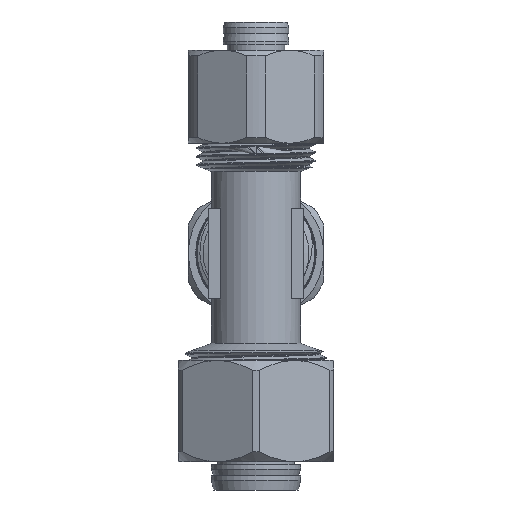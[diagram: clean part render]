
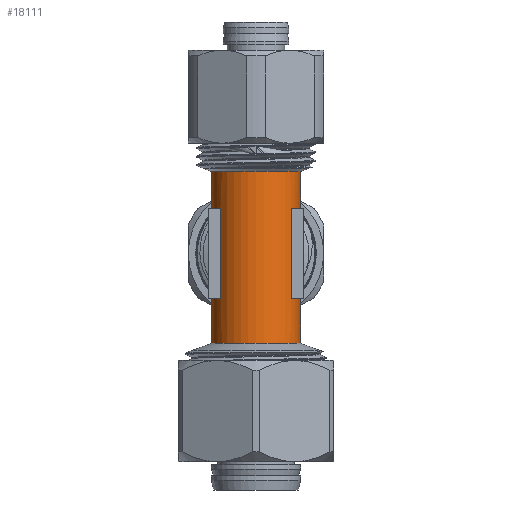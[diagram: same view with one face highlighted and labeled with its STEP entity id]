
A CAD part, front view. The second image highlights one B-rep face of the part: STEP entity #18111.
In plain terms, the highlighted cylindrical face has radius 7.9 mm (diameter 15.8 mm), a full revolution.
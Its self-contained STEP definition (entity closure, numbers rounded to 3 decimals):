
#177=ELLIPSE('',#19314,11.172,7.9);
#178=ELLIPSE('',#19315,11.172,7.9);
#179=ELLIPSE('',#19316,11.172,7.9);
#180=ELLIPSE('',#19319,11.172,7.9);
#2318=CYLINDRICAL_SURFACE('',#19363,7.9);
#2551=FACE_OUTER_BOUND('',#3612,.T.);
#3612=EDGE_LOOP('',(#12669,#12670,#12671,#12672,#12673,#12674,#12675,#12676,
#12677,#12678,#12679,#12680,#12681,#12682,#12683,#12684,#12685,#12686,#12687,
#12688,#12689,#12690,#12691,#12692));
#4775=LINE('',#23985,#5917);
#4779=LINE('',#23994,#5921);
#4787=LINE('',#24014,#5929);
#4790=LINE('',#24020,#5932);
#4797=LINE('',#24038,#5939);
#4800=LINE('',#24046,#5942);
#4827=LINE('',#24181,#5969);
#4828=LINE('',#24182,#5970);
#5917=VECTOR('',#20522,10.);
#5921=VECTOR('',#20528,10.);
#5929=VECTOR('',#20546,10.);
#5932=VECTOR('',#20551,10.);
#5939=VECTOR('',#20568,10.);
#5942=VECTOR('',#20575,10.);
#5969=VECTOR('',#20730,7.9);
#5970=VECTOR('',#20731,7.9);
#6963=CIRCLE('',#19233,7.9);
#6964=CIRCLE('',#19234,7.9);
#6965=CIRCLE('',#19236,7.9);
#6966=CIRCLE('',#19237,7.9);
#6978=CIRCLE('',#19288,7.9);
#6979=CIRCLE('',#19290,7.9);
#6980=CIRCLE('',#19294,7.9);
#6981=CIRCLE('',#19296,7.9);
#6984=CIRCLE('',#19302,7.9);
#6985=CIRCLE('',#19304,7.9);
#7439=VERTEX_POINT('',#23617);
#7440=VERTEX_POINT('',#23619);
#7441=VERTEX_POINT('',#23623);
#7442=VERTEX_POINT('',#23624);
#7526=VERTEX_POINT('',#23983);
#7527=VERTEX_POINT('',#23984);
#7530=VERTEX_POINT('',#23992);
#7531=VERTEX_POINT('',#23993);
#7534=VERTEX_POINT('',#24001);
#7536=VERTEX_POINT('',#24007);
#7538=VERTEX_POINT('',#24013);
#7540=VERTEX_POINT('',#24019);
#7542=VERTEX_POINT('',#24025);
#7544=VERTEX_POINT('',#24031);
#7546=VERTEX_POINT('',#24037);
#7549=VERTEX_POINT('',#24045);
#7552=VERTEX_POINT('',#24053);
#7555=VERTEX_POINT('',#24061);
#7562=VERTEX_POINT('',#24089);
#7563=VERTEX_POINT('',#24092);
#9368=EDGE_CURVE('',#7439,#7440,#6963,.T.);
#9369=EDGE_CURVE('',#7440,#7439,#6964,.T.);
#9370=EDGE_CURVE('',#7441,#7442,#6965,.T.);
#9371=EDGE_CURVE('',#7442,#7441,#6966,.T.);
#9496=EDGE_CURVE('',#7526,#7527,#4775,.T.);
#9500=EDGE_CURVE('',#7530,#7531,#4779,.T.);
#9504=EDGE_CURVE('',#7534,#7526,#6978,.T.);
#9507=EDGE_CURVE('',#7531,#7536,#6979,.T.);
#9510=EDGE_CURVE('',#7538,#7534,#4787,.T.);
#9513=EDGE_CURVE('',#7536,#7540,#4790,.T.);
#9516=EDGE_CURVE('',#7542,#7538,#6980,.T.);
#9519=EDGE_CURVE('',#7540,#7544,#6981,.T.);
#9522=EDGE_CURVE('',#7546,#7542,#4797,.T.);
#9526=EDGE_CURVE('',#7544,#7549,#4800,.T.);
#9530=EDGE_CURVE('',#7552,#7530,#6984,.T.);
#9534=EDGE_CURVE('',#7527,#7555,#6985,.T.);
#9548=EDGE_CURVE('',#7562,#7546,#177,.T.);
#9549=EDGE_CURVE('',#7549,#7562,#178,.T.);
#9550=EDGE_CURVE('',#7563,#7552,#179,.T.);
#9554=EDGE_CURVE('',#7555,#7563,#180,.T.);
#9592=EDGE_CURVE('',#7439,#7562,#4827,.T.);
#9593=EDGE_CURVE('',#7563,#7442,#4828,.T.);
#12669=ORIENTED_EDGE('',*,*,#9369,.F.);
#12670=ORIENTED_EDGE('',*,*,#9368,.F.);
#12671=ORIENTED_EDGE('',*,*,#9592,.T.);
#12672=ORIENTED_EDGE('',*,*,#9548,.T.);
#12673=ORIENTED_EDGE('',*,*,#9522,.T.);
#12674=ORIENTED_EDGE('',*,*,#9516,.T.);
#12675=ORIENTED_EDGE('',*,*,#9510,.T.);
#12676=ORIENTED_EDGE('',*,*,#9504,.T.);
#12677=ORIENTED_EDGE('',*,*,#9496,.T.);
#12678=ORIENTED_EDGE('',*,*,#9534,.T.);
#12679=ORIENTED_EDGE('',*,*,#9554,.T.);
#12680=ORIENTED_EDGE('',*,*,#9593,.T.);
#12681=ORIENTED_EDGE('',*,*,#9371,.T.);
#12682=ORIENTED_EDGE('',*,*,#9370,.T.);
#12683=ORIENTED_EDGE('',*,*,#9593,.F.);
#12684=ORIENTED_EDGE('',*,*,#9550,.T.);
#12685=ORIENTED_EDGE('',*,*,#9530,.T.);
#12686=ORIENTED_EDGE('',*,*,#9500,.T.);
#12687=ORIENTED_EDGE('',*,*,#9507,.T.);
#12688=ORIENTED_EDGE('',*,*,#9513,.T.);
#12689=ORIENTED_EDGE('',*,*,#9519,.T.);
#12690=ORIENTED_EDGE('',*,*,#9526,.T.);
#12691=ORIENTED_EDGE('',*,*,#9549,.T.);
#12692=ORIENTED_EDGE('',*,*,#9592,.F.);
#18111=ADVANCED_FACE('',(#2551),#2318,.T.);
#19233=AXIS2_PLACEMENT_3D('',#23620,#20319,#20320);
#19234=AXIS2_PLACEMENT_3D('',#23621,#20321,#20322);
#19236=AXIS2_PLACEMENT_3D('',#23625,#20325,#20326);
#19237=AXIS2_PLACEMENT_3D('',#23626,#20327,#20328);
#19288=AXIS2_PLACEMENT_3D('',#24002,#20534,#20535);
#19290=AXIS2_PLACEMENT_3D('',#24008,#20540,#20541);
#19294=AXIS2_PLACEMENT_3D('',#24026,#20556,#20557);
#19296=AXIS2_PLACEMENT_3D('',#24032,#20562,#20563);
#19302=AXIS2_PLACEMENT_3D('',#24054,#20582,#20583);
#19304=AXIS2_PLACEMENT_3D('',#24062,#20589,#20590);
#19314=AXIS2_PLACEMENT_3D('',#24090,#20620,#20621);
#19315=AXIS2_PLACEMENT_3D('',#24091,#20622,#20623);
#19316=AXIS2_PLACEMENT_3D('',#24093,#20624,#20625);
#19319=AXIS2_PLACEMENT_3D('',#24099,#20631,#20632);
#19363=AXIS2_PLACEMENT_3D('',#24180,#20728,#20729);
#20319=DIRECTION('center_axis',(0.,0.,1.));
#20320=DIRECTION('ref_axis',(1.,0.,0.));
#20321=DIRECTION('center_axis',(0.,0.,1.));
#20322=DIRECTION('ref_axis',(1.,0.,0.));
#20325=DIRECTION('center_axis',(0.,0.,1.));
#20326=DIRECTION('ref_axis',(1.,0.,0.));
#20327=DIRECTION('center_axis',(0.,0.,1.));
#20328=DIRECTION('ref_axis',(1.,0.,0.));
#20522=DIRECTION('',(0.,0.,1.));
#20528=DIRECTION('',(0.,0.,-1.));
#20534=DIRECTION('center_axis',(0.,0.,-1.));
#20535=DIRECTION('ref_axis',(0.,-1.,0.));
#20540=DIRECTION('center_axis',(0.,0.,-1.));
#20541=DIRECTION('ref_axis',(0.,-1.,0.));
#20546=DIRECTION('',(0.,0.,-1.));
#20551=DIRECTION('',(0.,0.,1.));
#20556=DIRECTION('center_axis',(0.,0.,1.));
#20557=DIRECTION('ref_axis',(0.,-1.,0.));
#20562=DIRECTION('center_axis',(0.,0.,1.));
#20563=DIRECTION('ref_axis',(0.,-1.,0.));
#20568=DIRECTION('',(0.,0.,1.));
#20575=DIRECTION('',(0.,0.,-1.));
#20582=DIRECTION('center_axis',(0.,0.,-1.));
#20583=DIRECTION('ref_axis',(0.,-1.,0.));
#20589=DIRECTION('center_axis',(0.,0.,-1.));
#20590=DIRECTION('ref_axis',(0.,-1.,0.));
#20620=DIRECTION('center_axis',(0.,-0.707,0.707));
#20621=DIRECTION('ref_axis',(0.,0.707,0.707));
#20622=DIRECTION('center_axis',(0.,-0.707,0.707));
#20623=DIRECTION('ref_axis',(0.,0.707,0.707));
#20624=DIRECTION('center_axis',(0.,-0.707,-0.707));
#20625=DIRECTION('ref_axis',(0.,-0.707,0.707));
#20631=DIRECTION('center_axis',(0.,-0.707,-0.707));
#20632=DIRECTION('ref_axis',(0.,-0.707,0.707));
#20728=DIRECTION('center_axis',(0.,0.,1.));
#20729=DIRECTION('ref_axis',(0.,-1.,0.));
#20730=DIRECTION('',(0.,0.,-1.));
#20731=DIRECTION('',(0.,0.,-1.));
#23617=CARTESIAN_POINT('',(0.,7.9,14.5));
#23619=CARTESIAN_POINT('',(0.,-7.9,14.5));
#23620=CARTESIAN_POINT('Origin',(0.,0.,14.5));
#23621=CARTESIAN_POINT('Origin',(0.,0.,14.5));
#23623=CARTESIAN_POINT('',(0.,-7.9,-16.));
#23624=CARTESIAN_POINT('',(0.,7.9,-16.));
#23625=CARTESIAN_POINT('Origin',(0.,0.,-16.));
#23626=CARTESIAN_POINT('Origin',(0.,0.,-16.));
#23983=CARTESIAN_POINT('',(-6.323,4.736,-8.022));
#23984=CARTESIAN_POINT('',(-6.323,4.736,-4.772));
#23985=CARTESIAN_POINT('',(-6.323,4.736,-0.75));
#23992=CARTESIAN_POINT('',(6.323,4.736,-4.772));
#23993=CARTESIAN_POINT('',(6.323,4.736,-8.022));
#23994=CARTESIAN_POINT('',(6.323,4.736,-0.75));
#24001=CARTESIAN_POINT('',(-6.302,-4.764,-8.022));
#24002=CARTESIAN_POINT('Origin',(0.,0.,-8.022));
#24007=CARTESIAN_POINT('',(6.302,-4.764,-8.022));
#24008=CARTESIAN_POINT('Origin',(0.,0.,-8.022));
#24013=CARTESIAN_POINT('',(-6.302,-4.764,7.978));
#24014=CARTESIAN_POINT('',(-6.302,-4.764,-0.75));
#24019=CARTESIAN_POINT('',(6.302,-4.764,7.978));
#24020=CARTESIAN_POINT('',(6.302,-4.764,-0.75));
#24025=CARTESIAN_POINT('',(-6.323,4.736,7.978));
#24026=CARTESIAN_POINT('Origin',(0.,0.,7.978));
#24031=CARTESIAN_POINT('',(6.323,4.736,7.978));
#24032=CARTESIAN_POINT('Origin',(0.,0.,7.978));
#24037=CARTESIAN_POINT('',(-6.323,4.736,4.736));
#24038=CARTESIAN_POINT('',(-6.323,4.736,-0.75));
#24045=CARTESIAN_POINT('',(6.323,4.736,4.736));
#24046=CARTESIAN_POINT('',(6.323,4.736,-0.75));
#24053=CARTESIAN_POINT('',(6.296,4.772,-4.772));
#24054=CARTESIAN_POINT('Origin',(0.,0.,-4.772));
#24061=CARTESIAN_POINT('',(-6.296,4.772,-4.772));
#24062=CARTESIAN_POINT('Origin',(0.,0.,-4.772));
#24089=CARTESIAN_POINT('',(0.,7.9,7.9));
#24090=CARTESIAN_POINT('Origin',(0.,0.,0.));
#24091=CARTESIAN_POINT('Origin',(0.,0.,0.));
#24092=CARTESIAN_POINT('',(0.,7.9,-7.9));
#24093=CARTESIAN_POINT('Origin',(0.,0.,0.));
#24099=CARTESIAN_POINT('Origin',(0.,0.,0.));
#24180=CARTESIAN_POINT('Origin',(0.,0.,-0.75));
#24181=CARTESIAN_POINT('',(0.,7.9,-0.75));
#24182=CARTESIAN_POINT('',(0.,7.9,-0.75));
